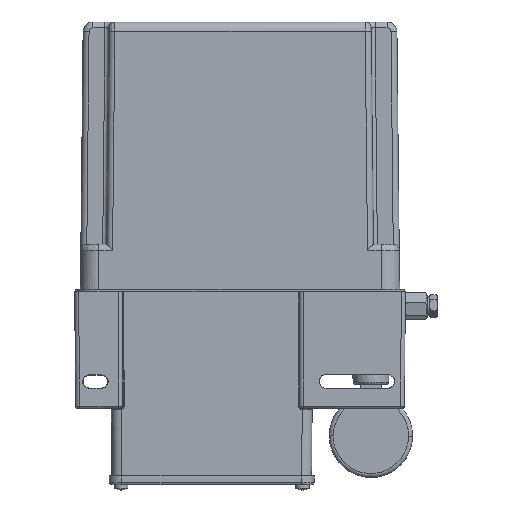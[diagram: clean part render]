
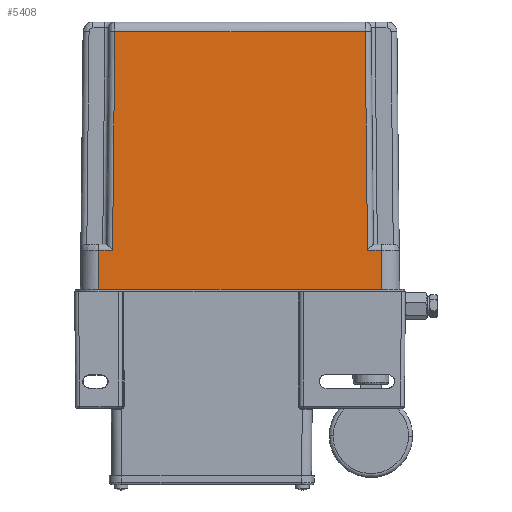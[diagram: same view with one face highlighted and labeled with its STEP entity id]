
A CAD part, front view. The second image highlights one B-rep face of the part: STEP entity #5408.
In plain terms, the highlighted planar face has unit normal (0, -1, 0.011).
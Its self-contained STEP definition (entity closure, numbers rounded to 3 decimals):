
#343 = VECTOR ( 'NONE', #31675, 1000. ) ;
#370 = VERTEX_POINT ( 'NONE', #4555 ) ;
#503 = ORIENTED_EDGE ( 'NONE', *, *, #21805, .T. ) ;
#750 = ORIENTED_EDGE ( 'NONE', *, *, #11591, .T. ) ;
#844 = CARTESIAN_POINT ( 'NONE',  ( 223.08, -36.086, 3.322 ) ) ;
#1253 = DIRECTION ( 'NONE',  ( -1., 0., 0. ) ) ;
#3769 = VERTEX_POINT ( 'NONE', #20271 ) ;
#3898 = CARTESIAN_POINT ( 'NONE',  ( 76.231, -36.293, -16.41 ) ) ;
#4025 = ORIENTED_EDGE ( 'NONE', *, *, #9904, .T. ) ;
#4127 = CARTESIAN_POINT ( 'NONE',  ( 76.231, -36.086, 3.322 ) ) ;
#4555 = CARTESIAN_POINT ( 'NONE',  ( 80.086, -36.293, -16.41 ) ) ;
#4600 = LINE ( 'NONE', #18174, #19184 ) ;
#4787 = CARTESIAN_POINT ( 'NONE',  ( 88.475, -34.931, 113.643 ) ) ;
#4939 = CARTESIAN_POINT ( 'NONE',  ( 216.053, -36.086, 3.322 ) ) ;
#5408 = ADVANCED_FACE ( 'NONE', ( #24952 ), #9869, .T. ) ;
#6288 = CARTESIAN_POINT ( 'NONE',  ( 216.053, -36.086, 3.322 ) ) ;
#6516 = CARTESIAN_POINT ( 'NONE',  ( 80.293, -36.086, 3.322 ) ) ;
#6729 = DIRECTION ( 'NONE',  ( -1., 0., 0. ) ) ;
#6770 = DIRECTION ( 'NONE',  ( -1., 0., 0. ) ) ;
#9674 = EDGE_CURVE ( 'NONE', #3769, #29623, #4600, .T. ) ;
#9869 = PLANE ( 'NONE',  #32193 ) ;
#9904 = EDGE_CURVE ( 'NONE', #29623, #19807, #15252, .T. ) ;
#11591 = EDGE_CURVE ( 'NONE', #20245, #12337, #25459, .T. ) ;
#11897 = ORIENTED_EDGE ( 'NONE', *, *, #27301, .T. ) ;
#11906 = LINE ( 'NONE', #22243, #36050 ) ;
#12337 = VERTEX_POINT ( 'NONE', #4939 ) ;
#12391 = ORIENTED_EDGE ( 'NONE', *, *, #35186, .T. ) ;
#13917 = LINE ( 'NONE', #35252, #26186 ) ;
#14737 = CARTESIAN_POINT ( 'NONE',  ( 221.87, -34.876, 118.909 ) ) ;
#14982 = VECTOR ( 'NONE', #6770, 1000. ) ;
#15252 = LINE ( 'NONE', #4787, #28416 ) ;
#16229 = LINE ( 'NONE', #14737, #343 ) ;
#18174 = CARTESIAN_POINT ( 'NONE',  ( 76.231, -34.931, 113.643 ) ) ;
#18438 = EDGE_CURVE ( 'NONE', #19807, #33932, #13917, .T. ) ;
#19149 = ORIENTED_EDGE ( 'NONE', *, *, #36053, .F. ) ;
#19184 = VECTOR ( 'NONE', #6729, 1000. ) ;
#19461 = DIRECTION ( 'NONE',  ( -0.01, -0.01, -1. ) ) ;
#19807 = VERTEX_POINT ( 'NONE', #35653 ) ;
#20245 = VERTEX_POINT ( 'NONE', #844 ) ;
#20271 = CARTESIAN_POINT ( 'NONE',  ( 214.898, -34.931, 113.643 ) ) ;
#21805 = EDGE_CURVE ( 'NONE', #12337, #3769, #32943, .T. ) ;
#22138 = VERTEX_POINT ( 'NONE', #25413 ) ;
#22243 = CARTESIAN_POINT ( 'NONE',  ( 151.687, -36.293, -16.41 ) ) ;
#22495 = DIRECTION ( 'NONE',  ( 1., 0., 0. ) ) ;
#24952 = FACE_OUTER_BOUND ( 'NONE', #35339, .T. ) ;
#25413 = CARTESIAN_POINT ( 'NONE',  ( 223.287, -36.293, -16.41 ) ) ;
#25459 = LINE ( 'NONE', #4127, #14982 ) ;
#26186 = VECTOR ( 'NONE', #1253, 1000. ) ;
#26652 = DIRECTION ( 'NONE',  ( 0., -1., 0.01 ) ) ;
#26972 = CARTESIAN_POINT ( 'NONE',  ( 80.293, -36.086, 3.322 ) ) ;
#27301 = EDGE_CURVE ( 'NONE', #33932, #370, #28106, .T. ) ;
#27337 = CARTESIAN_POINT ( 'NONE',  ( 88.475, -34.931, 113.643 ) ) ;
#27790 = ORIENTED_EDGE ( 'NONE', *, *, #18438, .T. ) ;
#28106 = LINE ( 'NONE', #6516, #36025 ) ;
#28416 = VECTOR ( 'NONE', #19461, 1000. ) ;
#29623 = VERTEX_POINT ( 'NONE', #27337 ) ;
#30295 = VECTOR ( 'NONE', #34340, 1000. ) ;
#31675 = DIRECTION ( 'NONE',  ( 0.01, -0.01, -1. ) ) ;
#32193 = AXIS2_PLACEMENT_3D ( 'NONE', #3898, #26652, #34938 ) ;
#32943 = LINE ( 'NONE', #6288, #30295 ) ;
#33932 = VERTEX_POINT ( 'NONE', #26972 ) ;
#34340 = DIRECTION ( 'NONE',  ( -0.01, 0.01, 1. ) ) ;
#34568 = DIRECTION ( 'NONE',  ( -0.01, -0.01, -1. ) ) ;
#34938 = DIRECTION ( 'NONE',  ( 0., -0.01, -1. ) ) ;
#35186 = EDGE_CURVE ( 'NONE', #370, #22138, #11906, .T. ) ;
#35252 = CARTESIAN_POINT ( 'NONE',  ( 76.231, -36.086, 3.322 ) ) ;
#35339 = EDGE_LOOP ( 'NONE', ( #4025, #27790, #11897, #12391, #19149, #750, #503, #35411 ) ) ;
#35411 = ORIENTED_EDGE ( 'NONE', *, *, #9674, .T. ) ;
#35653 = CARTESIAN_POINT ( 'NONE',  ( 87.32, -36.086, 3.322 ) ) ;
#36025 = VECTOR ( 'NONE', #34568, 1000. ) ;
#36050 = VECTOR ( 'NONE', #22495, 1000. ) ;
#36053 = EDGE_CURVE ( 'NONE', #20245, #22138, #16229, .T. ) ;
